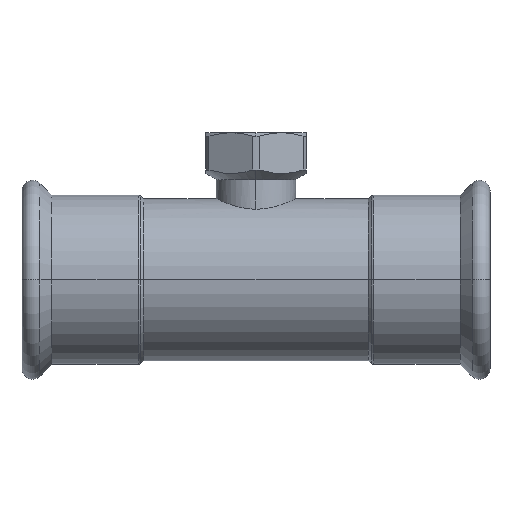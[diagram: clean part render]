
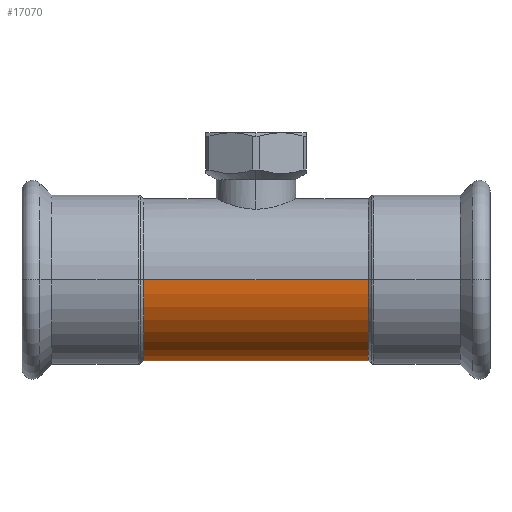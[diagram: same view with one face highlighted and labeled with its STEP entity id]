
A CAD part, front view. The second image highlights one B-rep face of the part: STEP entity #17070.
In plain terms, the highlighted cylindrical face has radius 54 mm (diameter 108 mm), a partial arc.
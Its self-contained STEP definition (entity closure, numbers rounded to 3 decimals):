
#1760=CARTESIAN_POINT('',(4.,-54.,0.));
#1770=VERTEX_POINT('',#1760);
#1950=CARTESIAN_POINT('',(4.,54.,0.));
#1960=VERTEX_POINT('',#1950);
#1990=CARTESIAN_POINT('',(4.,0.,0.));
#2000=DIRECTION('',(1.,0.,0.));
#2010=DIRECTION('',(0.,-1.,0.));
#2020=AXIS2_PLACEMENT_3D('',#1990,#2000,#2010);
#2030=CIRCLE('',#2020,54.);
#2040=EDGE_CURVE('',#1770,#1960,#2030,.T.);
#5180=CARTESIAN_POINT('',(4.,0.,0.));
#5190=DIRECTION('',(1.,0.,0.));
#5200=DIRECTION('',(0.,1.,0.));
#5210=AXIS2_PLACEMENT_3D('',#5180,#5190,#5200);
#5220=CYLINDRICAL_SURFACE('',#5210,54.);
#16810=CARTESIAN_POINT('',(4.,-54.,0.));
#16820=DIRECTION('',(1.,0.,0.));
#16830=VECTOR('',#16820,1.);
#16840=LINE('',#16810,#16830);
#16850=CARTESIAN_POINT('',(-146.,-54.,0.));
#16860=VERTEX_POINT('',#16850);
#16870=EDGE_CURVE('',#16860,#1770,#16840,.T.);
#16880=ORIENTED_EDGE('',*,*,#16870,.F.);
#16890=ORIENTED_EDGE('',*,*,#2040,.F.);
#16900=CARTESIAN_POINT('',(4.,54.,0.));
#16910=DIRECTION('',(1.,0.,0.));
#16920=VECTOR('',#16910,1.);
#16930=LINE('',#16900,#16920);
#16940=CARTESIAN_POINT('',(-146.,54.,0.));
#16950=VERTEX_POINT('',#16940);
#16960=EDGE_CURVE('',#16950,#1960,#16930,.T.);
#16970=ORIENTED_EDGE('',*,*,#16960,.T.);
#16980=CARTESIAN_POINT('',(-146.,0.,0.));
#16990=DIRECTION('',(1.,0.,0.));
#17000=DIRECTION('',(0.,1.,0.));
#17010=AXIS2_PLACEMENT_3D('',#16980,#16990,#17000);
#17020=CIRCLE('',#17010,54.);
#17030=EDGE_CURVE('',#16860,#16950,#17020,.T.);
#17040=ORIENTED_EDGE('',*,*,#17030,.T.);
#17050=EDGE_LOOP('',(#17040,#16970,#16890,#16880));
#17060=FACE_OUTER_BOUND('',#17050,.T.);
#17070=ADVANCED_FACE('',(#17060),#5220,.T.);
